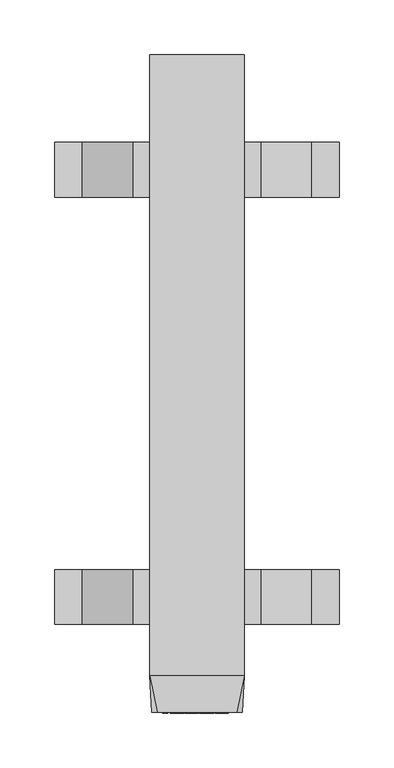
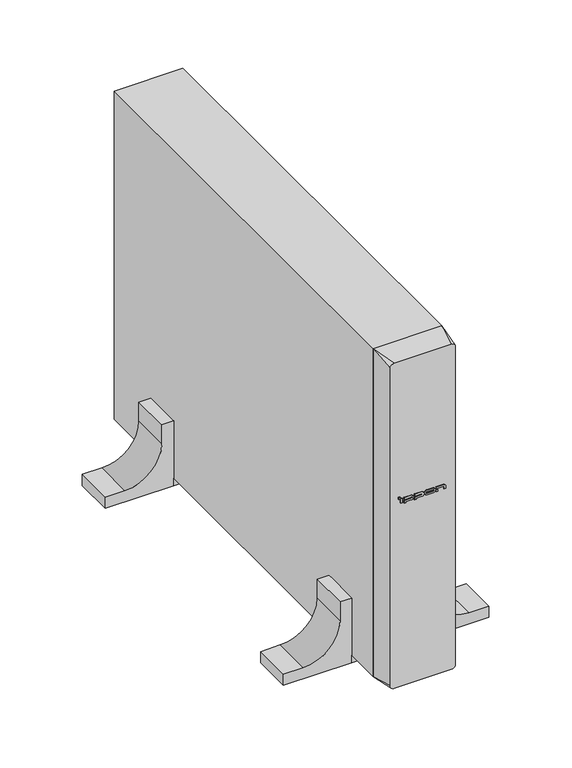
"""IFC4 building model written with IfcOpenShell, lengths in millimetres: proxy geometry, IPPON_ИБП_Smart Winner II_1000_1500_2000_2000E_3000ВА : Smart Winner II 2000 ВА."""

import ifcopenshell
import ifcopenshell.guid

model = None  # the IFC model being written
_history = None  # IfcOwnerHistory: only IFC2X3 demands one
_inside = {}  # id of a spatial element -> (the spatial element, [elements in it])
_under = {}  # id of a project, library or spatial element -> (it, [spatial elements below it])
_declared = {}  # id of a project -> (the project, [libraries it declares])
_typed = {}  # id of a type object -> (the type object, [elements of that type])
_made_of = {}  # id of a material, layer set ... -> (it, [elements and type objects made of it])


def new_model(schema):
    """Start an empty IFC model of exactly this schema.

    Asked for "IFC4X3", IfcOpenShell would pick the latest addendum, in which some entities
    have other attributes; the version numbers below select the first issue.
    IFC2X3 requires an IfcOwnerHistory on every rooted entity: one is made here for all.
    """
    global model, _history
    if schema == "IFC4X3":
        model = ifcopenshell.file(schema_version=(4, 3, 0, 0))
    else:
        model = ifcopenshell.file(schema=schema)
    _inside.clear()
    _under.clear()
    _declared.clear()
    _typed.clear()
    _made_of.clear()
    _history = None
    if model.schema == "IFC2X3":
        org = make("IfcOrganization", Name="unknown")
        user = make(
            "IfcPersonAndOrganization",
            ThePerson=make("IfcPerson", FamilyName="unknown"),
            TheOrganization=org,
        )
        app = make(
            "IfcApplication",
            ApplicationDeveloper=org,
            Version="unknown",
            ApplicationFullName="unknown",
            ApplicationIdentifier="unknown",
        )
        _history = make(
            "IfcOwnerHistory",
            OwningUser=user,
            OwningApplication=app,
            ChangeAction="ADDED",
            CreationDate=0,
        )
    return model


def make(cls, **values):
    """One entity of the class cls with the attributes given. An attribute that is None is left unset."""
    return model.create_entity(
        cls, **{name: value for name, value in values.items() if value is not None}
    )


def rooted(cls, **values):
    """An entity with a GlobalId (a new one), such as an element, a storey or a relation."""
    return make(cls, GlobalId=ifcopenshell.guid.new(), OwnerHistory=_history, **values)


def si_unit(unit_type, name, prefix=None):
    """IfcSIUnit, for example si_unit("LENGTHUNIT", "METRE", prefix="MILLI")."""
    return make("IfcSIUnit", UnitType=unit_type, Prefix=prefix, Name=name)


def assignment(units):
    """IfcUnitAssignment: the units of a project."""
    return None if units is None else make("IfcUnitAssignment", Units=units)


def point(xyz):
    """IfcCartesianPoint."""
    return None if xyz is None else make("IfcCartesianPoint", Coordinates=xyz)


def direction(xyz):
    """IfcDirection."""
    return None if xyz is None else make("IfcDirection", DirectionRatios=xyz)


def frame(location, z_axis=None, x_axis=None):
    """IfcAxis2Placement3D, a coordinate frame: its origin and axes. An axis left out is left unset."""
    return make(
        "IfcAxis2Placement3D",
        Location=point(location),
        Axis=direction(z_axis),
        RefDirection=direction(x_axis),
    )


def frame_2d(location, x_axis=None):
    """IfcAxis2Placement2D, a coordinate frame in the plane: its origin and x axis."""
    return make(
        "IfcAxis2Placement2D", Location=point(location), RefDirection=direction(x_axis)
    )


def origin():
    """The frame at (0, 0, 0) with its axes left unset."""
    return frame((0.0, 0.0, 0.0))


def origin_with_axes():
    """The frame at (0, 0, 0) with the z axis (0, 0, 1) and the x axis (1, 0, 0) written out."""
    return frame((0.0, 0.0, 0.0), z_axis=(0.0, 0.0, 1.0), x_axis=(1.0, 0.0, 0.0))


def place(relative_to, where):
    """IfcLocalPlacement: puts the frame where relative to a parent placement (None: the world)."""
    return make(
        "IfcLocalPlacement", PlacementRelTo=relative_to, RelativePlacement=where
    )


def context(
    kind, dimensions, precision=None, world=None, true_north=None, identifier=None
):
    """IfcGeometricRepresentationContext, for example the 3D "Model" context."""
    return make(
        "IfcGeometricRepresentationContext",
        ContextIdentifier=identifier,
        ContextType=kind,
        CoordinateSpaceDimension=dimensions,
        Precision=precision,
        WorldCoordinateSystem=world,
        TrueNorth=true_north,
    )


def project(units=None, contexts=None):
    """IfcProject with its units and contexts."""
    return rooted(
        "IfcProject",
        Name="project",
        RepresentationContexts=contexts,
        UnitsInContext=assignment(units),
    )


def spatial(cls, under=None, at=None, **own):
    """A site, building, storey or space (cls), placed at a placement, below another one or the project."""
    s = rooted(cls, ObjectPlacement=at, **own)
    if under is not None:
        _under.setdefault(under.id(), (under, []))[1].append(s)
    return s


def polyline(points):
    """IfcPolyline through the points."""
    return make("IfcPolyline", Points=[point(p) for p in points])


def circle_curve(where, radius):
    """IfcCircle in the frame where."""
    return make("IfcCircle", Position=where, Radius=radius)


def trimmed(basis, trim1, trim2, sense, master):
    """IfcTrimmedCurve: the piece of a basis curve between two trims."""
    return make(
        "IfcTrimmedCurve",
        BasisCurve=basis,
        Trim1=trim1,
        Trim2=trim2,
        SenseAgreement=sense,
        MasterRepresentation=master,
    )


def segment(curve, same_sense, transition):
    """IfcCompositeCurveSegment."""
    return make(
        "IfcCompositeCurveSegment",
        Transition=transition,
        SameSense=same_sense,
        ParentCurve=curve,
    )


def composite_curve(segments, self_intersect=None):
    """IfcCompositeCurve: segments joined end to end."""
    return make("IfcCompositeCurve", Segments=segments, SelfIntersect=self_intersect)


def outline(outer, holes=None, kind="AREA"):
    """IfcArbitraryClosedProfileDef: a profile drawn as a closed curve; with holes, ...WithVoids."""
    if holes is None:
        return make("IfcArbitraryClosedProfileDef", ProfileType=kind, OuterCurve=outer)
    return make(
        "IfcArbitraryProfileDefWithVoids",
        ProfileType=kind,
        OuterCurve=outer,
        InnerCurves=holes,
    )


def extrude(swept, where, along, depth):
    """IfcExtrudedAreaSolid: the profile swept, set in the frame where, extruded along a direction by depth."""
    return make(
        "IfcExtrudedAreaSolid",
        SweptArea=swept,
        Position=where,
        ExtrudedDirection=direction(along),
        Depth=depth,
    )


def shape(context_of_items, identifier, shape_type, items):
    """IfcShapeRepresentation: the items that make up one representation, for example the "Body"."""
    return make(
        "IfcShapeRepresentation",
        ContextOfItems=context_of_items,
        RepresentationIdentifier=identifier,
        RepresentationType=shape_type,
        Items=items,
    )


def source(mapping_origin, context_of_items, identifier, shape_type, items):
    """IfcRepresentationMap: a shape defined once, which mapped items show again and again."""
    return make(
        "IfcRepresentationMap",
        MappingOrigin=mapping_origin,
        MappedRepresentation=shape(context_of_items, identifier, shape_type, items),
    )


def transform(
    local_origin,
    x_axis=None,
    y_axis=None,
    z_axis=None,
    scale=None,
    scale2=None,
    scale3=None,
    uniform=True,
):
    """IfcCartesianTransformationOperator3D, or its non-uniform kind. x_axis, y_axis, z_axis: its Axis1, 2, 3."""
    if uniform:
        return make(
            "IfcCartesianTransformationOperator3D",
            Axis1=direction(x_axis),
            Axis2=direction(y_axis),
            LocalOrigin=point(local_origin),
            Scale=scale,
            Axis3=direction(z_axis),
        )
    return make(
        "IfcCartesianTransformationOperator3DnonUniform",
        Axis1=direction(x_axis),
        Axis2=direction(y_axis),
        LocalOrigin=point(local_origin),
        Scale=scale,
        Axis3=direction(z_axis),
        Scale2=scale2,
        Scale3=scale3,
    )


def mapped(mapping_source, mapping_target):
    """IfcMappedItem: shows the shape of a source again, moved by a transform."""
    return make(
        "IfcMappedItem", MappingSource=mapping_source, MappingTarget=mapping_target
    )


def made_of(thing, what):
    """Note that an element or type object is made of a material, layer set ...; save() writes the relation."""
    if what is not None:
        _made_of.setdefault(what.id(), (what, []))[1].append(thing)
    return thing


def element(
    cls,
    number,
    at=None,
    inside=None,
    cuts=None,
    type_object=None,
    material=None,
    context=None,
    identifier="Body",
    shape_type=None,
    held_by="IfcProductDefinitionShape",
    body=None,
    shapes=None,
    **own,
):
    """One element of the class cls, such as IfcWall. Its Tag is "e" and its number.

    at: its placement. inside: the storey or other place that contains it. cuts: it is an
    opening in that element (IfcRelVoidsElement). A single representation is given by context,
    identifier, shape_type and body (its items); several are given by shapes. held_by: the class
    of the entity that holds the representations. save() writes the other relations.
    """
    e = rooted(cls, Tag="e%d" % number, ObjectPlacement=at, **own)
    if body is not None:
        shapes = [shape(context, identifier, shape_type, body)]
    if shapes is not None:
        e.Representation = make(held_by, Representations=shapes)
    if inside is not None:
        _inside.setdefault(inside.id(), (inside, []))[1].append(e)
    if cuts is not None:
        rooted(
            "IfcRelVoidsElement", RelatingBuildingElement=cuts, RelatedOpeningElement=e
        )
    if type_object is not None:
        _typed.setdefault(type_object.id(), (type_object, []))[1].append(e)
    return made_of(e, material)


def aggregate(whole, parts):
    """IfcRelAggregates: a whole, such as a stair, and the parts it consists of."""
    return rooted("IfcRelAggregates", RelatingObject=whole, RelatedObjects=parts)


def save(model, path):
    """Write the relations noted so far, then the file.

    IfcRelAggregates (storeys below a building ...), IfcRelContainedInSpatialStructure (elements
    in a storey), IfcRelDefinesByType, IfcRelAssociatesMaterial and IfcRelDeclares: one each for
    every whole, place, type object, material and project.
    """
    for whole, parts in _under.values():
        aggregate(whole, parts)
    for where, things in _inside.values():
        rooted(
            "IfcRelContainedInSpatialStructure",
            RelatedElements=things,
            RelatingStructure=where,
        )
    for kind, things in _typed.values():
        rooted("IfcRelDefinesByType", RelatedObjects=things, RelatingType=kind)
    for what, things in _made_of.values():
        rooted("IfcRelAssociatesMaterial", RelatedObjects=things, RelatingMaterial=what)
    for by, libraries in _declared.values():
        rooted("IfcRelDeclares", RelatingContext=by, RelatedDefinitions=libraries)
    model.write(path)


def plane_surface(at):
    """IfcPlane: the flat surface through the origin of the frame at, square to its z axis."""
    return make("IfcPlane", Position=at)


def spline_surface(u_degree, v_degree, points, u_multiplicities, v_multiplicities, u_knots, v_knots, weights=None):
    """IfcBSplineSurfaceWithKnots; with weights, IfcRationalBSplineSurfaceWithKnots. points: one row for each step in u."""
    own = dict(
        UDegree=u_degree,
        VDegree=v_degree,
        ControlPointsList=[[point(p) for p in row] for row in points],
        SurfaceForm="UNSPECIFIED",
        UClosed=False,
        VClosed=False,
        SelfIntersect=False,
        UMultiplicities=u_multiplicities,
        VMultiplicities=v_multiplicities,
        UKnots=u_knots,
        VKnots=v_knots,
        KnotSpec="UNSPECIFIED",
    )
    if weights is None:
        return make("IfcBSplineSurfaceWithKnots", **own)
    return make("IfcRationalBSplineSurfaceWithKnots", WeightsData=weights, **own)


def advanced_brep(points, edges, surfaces, faces):
    """IfcAdvancedBrep: a solid bounded by faces that lie on surfaces and meet in shared edges.

    An edge is (start, end): straight between two places in points (the first is 0);
    or (start, end, curve); or (start, end, curve, False) where it runs against its curve.
    A face is (place in surfaces, loops), or (place, loops, False) where it looks against
    its surface's normal. A loop lists edges by number (the first is 1), with a minus sign
    where the edge is run from its end to its start. The first loop is the outer one.
    """
    corners = [point(p) for p in points]
    vertices = [make("IfcVertexPoint", VertexGeometry=c) for c in corners]
    made = []
    for start, end, *more in edges:
        made.append(
            make(
                "IfcEdgeCurve",
                EdgeStart=vertices[start],
                EdgeEnd=vertices[end],
                EdgeGeometry=more[0] if more else make("IfcPolyline", Points=[corners[start], corners[end]]),
                SameSense=more[1] if len(more) > 1 else True,
            )
        )
    hull = []
    for where, loops, *sense in faces:
        bounds = []
        for j, loop in enumerate(loops):
            ring = [make("IfcOrientedEdge", EdgeElement=made[abs(k) - 1], Orientation=k > 0) for k in loop]
            bounds.append(
                make(
                    "IfcFaceOuterBound" if j == 0 else "IfcFaceBound",
                    Bound=make("IfcEdgeLoop", EdgeList=ring),
                    Orientation=True,
                )
            )
        hull.append(make("IfcAdvancedFace", Bounds=bounds, FaceSurface=surfaces[where], SameSense=sense[0] if sense else True))
    return make("IfcAdvancedBrep", Outer=make("IfcClosedShell", CfsFaces=hull))


def electrical_equipment_31c24b1d(model_context):
    return source(origin(), model_context, "Body", "SolidModel", [
        extrude(outline(polyline([(-29.1718133, -1.0), (-31.1718133, -1.0), (-31.1718133, 0.0), (-29.1718133, 0.0), (-29.1718133, -1.0)])), frame((0.0, 0.0, 262.7195835), z_axis=(0.0, 0.0, 1.0), x_axis=(1.0, 0.0, 0.0)), (0.0, 0.0, 1.0), 2.3),
        extrude(outline(polyline([(18.6035474, -1.0), (16.6035474, -1.0), (16.6035474, 0.0), (18.6035474, 0.0), (18.6035474, -1.0)])), frame((0.0, 0.0, 256.7195835), z_axis=(0.0, 0.0, 1.0), x_axis=(1.0, 0.0, 0.0)), (0.0, 0.0, 1.0), 2.2268231),
        extrude(outline(polyline([(-26.438565, -1.0), (-28.4833324, -1.0), (-28.4833324, 0.0), (-26.438565, 0.0), (-26.438565, -1.0)])), frame((0.0, 0.0, 256.7195835), z_axis=(0.0, 0.0, 1.0), x_axis=(1.0, 0.0, 0.0)), (0.0, 0.0, 1.0), 6.0),
        extrude(outline(composite_curve([segment(polyline([(260.4571435, -24.2241109), (260.4571435, -14.9923536)]), True, "CONTINUOUS"), segment(trimmed(circle_curve(frame_2d((259.6006642, -14.9923536)), 0.8564793), [point((260.4571435, -14.9923536))], [point((258.7441849, -14.9923536))], True, "CARTESIAN"), True, "CONTINUOUS"), segment(polyline([(258.7441849, -14.9923536), (258.7441849, -24.2241109), (255.2536803, -24.2241109), (255.2536803, -22.2241109), (256.7195835, -22.2241109), (256.7195835, -15.1486036)]), True, "CONTINUOUS"), segment(trimmed(circle_curve(frame_2d((259.7195835, -15.1486036)), 3.0), [point((256.7195835, -15.1486036))], [point((262.7195835, -15.1486036))], False, "CARTESIAN"), True, "CONTINUOUS"), segment(polyline([(262.7195835, -15.1486036), (262.7195835, -24.2241109), (260.4571435, -24.2241109)]), True, "CONTINUOUS")], self_intersect=False)), frame((0.0, -1.0, 0.0), z_axis=(0.0, 1.0, 0.0), x_axis=(0.0, 0.0, 1.0)), (0.0, 0.0, 1.0), 1.0),
        extrude(outline(composite_curve([segment(polyline([(260.4571435, -11.0171091), (260.4571435, -1.7853518)]), True, "CONTINUOUS"), segment(trimmed(circle_curve(frame_2d((259.6006642, -1.7853518)), 0.8564793), [point((260.4571435, -1.7853518))], [point((258.7441849, -1.7853518))], True, "CARTESIAN"), True, "CONTINUOUS"), segment(polyline([(258.7441849, -1.7853518), (258.7441849, -11.0171091), (255.2536803, -11.0171091), (255.2536803, -9.0171091), (256.7195835, -9.0171091), (256.7195835, -1.9416018)]), True, "CONTINUOUS"), segment(trimmed(circle_curve(frame_2d((259.7195835, -1.9416018)), 3.0), [point((256.7195835, -1.9416018))], [point((262.7195835, -1.9416018))], False, "CARTESIAN"), True, "CONTINUOUS"), segment(polyline([(262.7195835, -1.9416018), (262.7195835, -11.0171091), (260.4571435, -11.0171091)]), True, "CONTINUOUS")], self_intersect=False)), frame((0.0, -1.0, 0.0), z_axis=(0.0, 1.0, 0.0), x_axis=(0.0, 0.0, 1.0)), (0.0, 0.0, 1.0), 1.0),
        extrude(outline(composite_curve([segment(trimmed(circle_curve(frame_2d((259.7195835, 12.558657)), 3.0), [point((256.7195835, 12.558657))], [point((262.7195835, 12.558657))], False, "CARTESIAN"), True, "CONTINUOUS"), segment(polyline([(262.7195835, 12.558657), (262.7195835, 4.958657)]), True, "CONTINUOUS"), segment(trimmed(circle_curve(frame_2d((259.7195835, 4.958657)), 3.0), [point((262.7195835, 4.958657))], [point((256.7195835, 4.958657))], False, "CARTESIAN"), True, "CONTINUOUS"), segment(polyline([(256.7195835, 4.958657), (256.7195835, 12.558657)]), True, "CONTINUOUS")], self_intersect=False), holes=[composite_curve([segment(polyline([(258.7441849, 12.714907), (258.7441849, 4.802407)]), True, "CONTINUOUS"), segment(trimmed(circle_curve(frame_2d((259.6006642, 4.802407)), 0.8564793), [point((258.7441849, 4.802407))], [point((260.4571435, 4.802407))], True, "CARTESIAN"), True, "CONTINUOUS"), segment(polyline([(260.4571435, 4.802407), (260.4571435, 12.714907)]), True, "CONTINUOUS"), segment(trimmed(circle_curve(frame_2d((259.6006642, 12.714907)), 0.8564793), [point((260.4571435, 12.714907))], [point((258.7441849, 12.714907))], True, "CARTESIAN"), True, "CONTINUOUS")], self_intersect=False)]), frame((0.0, -1.0, 0.0), z_axis=(0.0, 1.0, 0.0), x_axis=(0.0, 0.0, 1.0)), (0.0, 0.0, 1.0), 1.0),
        extrude(outline(composite_curve([segment(polyline([(260.4571435, 16.6035474), (260.4571435, 25.8353046)]), True, "CONTINUOUS"), segment(trimmed(circle_curve(frame_2d((259.6006642, 25.8353046)), 0.8564793), [point((260.4571435, 25.8353046))], [point((259.6006642, 26.6917839))], True, "CARTESIAN"), True, "CONTINUOUS"), segment(polyline([(259.6006642, 26.6917839), (256.7195835, 26.6917839), (256.7195835, 28.6317921), (260.25, 28.6317921)]), True, "CONTINUOUS"), segment(trimmed(circle_curve(frame_2d((259.7195835, 25.6790546)), 3.0), [point((260.25, 28.6317921))], [point((262.7195835, 25.6790546))], False, "CARTESIAN"), True, "CONTINUOUS"), segment(polyline([(262.7195835, 25.6790546), (262.7195835, 16.6035474), (260.4571435, 16.6035474)]), True, "CONTINUOUS")], self_intersect=False)), frame((0.0, -1.0, 0.0), z_axis=(0.0, 1.0, 0.0), x_axis=(0.0, 0.0, 1.0)), (0.0, 0.0, 1.0), 1.0),
        extrude(outline(polyline([(-43.25, 520.0), (43.25, 520.0), (43.25, 470.0), (-43.25, 470.0), (-43.25, 520.0)])), origin_with_axes(), (0.0, 0.0, 1.0), 10.0),
        extrude(outline(polyline([(43.25, 80.0), (-43.25, 80.0), (-43.25, 130.0), (43.25, 130.0), (43.25, 80.0)])), origin_with_axes(), (0.0, 0.0, 1.0), 10.0),
        extrude(outline(composite_curve([segment(polyline([(0.0, -43.25), (86.5, -43.25), (86.5, -58.25), (61.5, -58.25)]), True, "CONTINUOUS"), segment(trimmed(circle_curve(frame_2d((61.5, -104.75)), 46.5), [point((61.5, -58.25))], [point((15.0, -104.75))], True, "CARTESIAN"), True, "CONTINUOUS"), segment(polyline([(15.0, -104.75), (15.0, -129.75), (0.0, -129.75), (0.0, -43.25)]), True, "CONTINUOUS")], self_intersect=False)), frame((0.0, 470.0, 0.0), z_axis=(0.0, 1.0, 0.0), x_axis=(0.0, 0.0, 1.0)), (0.0, 0.0, 1.0), 50.0),
        extrude(outline(composite_curve([segment(polyline([(0.0, -43.25), (86.5, -43.25), (86.5, -58.25), (61.5, -58.25)]), True, "CONTINUOUS"), segment(trimmed(circle_curve(frame_2d((61.5, -104.75)), 46.5), [point((61.5, -58.25))], [point((15.0, -104.75))], True, "CARTESIAN"), True, "CONTINUOUS"), segment(polyline([(15.0, -104.75), (15.0, -129.75), (0.0, -129.75), (0.0, -43.25)]), True, "CONTINUOUS")], self_intersect=False)), frame((0.0, 80.0, 0.0), z_axis=(0.0, 1.0, 0.0), x_axis=(0.0, 0.0, 1.0)), (0.0, 0.0, 1.0), 50.0),
        extrude(outline(composite_curve([segment(polyline([(0.0, 129.75), (15.0, 129.75), (15.0, 104.75)]), True, "CONTINUOUS"), segment(trimmed(circle_curve(frame_2d((61.5, 104.75)), 46.5), [point((15.0, 104.75))], [point((61.5, 58.25))], True, "CARTESIAN"), True, "CONTINUOUS"), segment(polyline([(61.5, 58.25), (86.5, 58.25), (86.5, 43.25), (0.0, 43.25), (0.0, 129.75)]), True, "CONTINUOUS")], self_intersect=False)), frame((0.0, 470.0, 0.0), z_axis=(0.0, 1.0, 0.0), x_axis=(0.0, 0.0, 1.0)), (0.0, 0.0, 1.0), 50.0),
        extrude(outline(composite_curve([segment(polyline([(0.0, 43.25), (0.0, 129.75), (15.0, 129.75), (15.0, 104.75)]), True, "CONTINUOUS"), segment(trimmed(circle_curve(frame_2d((61.5, 104.75)), 46.5), [point((15.0, 104.75))], [point((61.5, 58.25))], True, "CARTESIAN"), True, "CONTINUOUS"), segment(polyline([(61.5, 58.25), (86.5, 58.25), (86.5, 43.25), (0.0, 43.25)]), True, "CONTINUOUS")], self_intersect=False)), frame((0.0, 80.0, 0.0), z_axis=(0.0, 1.0, 0.0), x_axis=(0.0, 0.0, 1.0)), (0.0, 0.0, 1.0), 50.0),
        advanced_brep(
        [(36.25, 0.0, 12.0), (41.25, 0.0, 17.0), (41.25, 0.0, 441.0), (36.25, 0.0, 446.0), (-36.25, 0.0, 446.0), (-41.25, 0.0, 441.0), (-41.25, 0.0, 17.0), (-36.25, 0.0, 12.0), (43.25, 33.0, 10.0), (-43.25, 33.0, 10.0), (-43.25, 33.0, 448.0), (43.25, 33.0, 448.0)],
        [
            (0, 1, circle_curve(frame((36.25, 0.0, 17.0), z_axis=(0.0, -1.0, 0.0), x_axis=(-1.0, 0.0, 0.0)), 5.0)),
            (1, 2),
            (2, 3, circle_curve(frame((36.25, 0.0, 441.0), z_axis=(0.0, -1.0, 0.0), x_axis=(-1.0, 0.0, 0.0)), 5.0)),
            (3, 4),
            (4, 5, circle_curve(frame((-36.25, 0.0, 441.0), z_axis=(0.0, -1.0, 0.0), x_axis=(-1.0, 0.0, 0.0)), 5.0)),
            (5, 6),
            (6, 7, circle_curve(frame((-36.25, 0.0, 17.0), z_axis=(0.0, -1.0, 0.0), x_axis=(-1.0, 0.0, 0.0)), 5.0)),
            (7, 0),
            (8, 9),
            (9, 10),
            (10, 11),
            (11, 8),
            (0, 8),
            (8, 1),
            (7, 9),
            (6, 9),
            (5, 10),
            (4, 10),
            (3, 11),
            (2, 11),
        ],
        [
            plane_surface(frame((0.0, 0.0, 229.0), z_axis=(0.0, -1.0, 0.0), x_axis=(1.0, 0.0, 0.0))),
            plane_surface(frame((0.0, 33.0, 229.0), z_axis=(0.0, 1.0, 0.0), x_axis=(1.0, 0.0, 0.0))),
            spline_surface(2, 1, [[(43.25, 33.0, 10.0), (36.25, 0.0, 12.0)], [(43.25, 33.0, 10.0), (41.25, 0.0, 12.0)], [(43.25, 33.0, 10.0), (41.25, 0.0, 17.0)]], [3, 3], [2, 2], [0.0, 1.0], [0.0, 1.0], weights=[[1.0, 1.0], [0.7071067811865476, 0.7071067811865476], [1.0, 1.0]]),
            plane_surface(frame((0.0, 33.0, 10.0), z_axis=(0.0, -0.060495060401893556, -0.9981684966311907), x_axis=(1.0, 0.0, 0.0))),
            spline_surface(2, 1, [[(-43.25, 33.0, 10.0), (-41.25, 0.0, 17.0)], [(-43.25, 33.0, 10.0), (-41.25, 0.0, 12.0)], [(-43.25, 33.0, 10.0), (-36.25, 0.0, 12.0)]], [3, 3], [2, 2], [0.0, 1.0], [0.0, 1.0], weights=[[1.0, 1.0], [0.7071067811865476, 0.7071067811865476], [1.0, 1.0]]),
            plane_surface(frame((-43.25, 33.0, 229.0), z_axis=(-0.998168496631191, -0.06049506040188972, 0.0), x_axis=(0.0, 0.0, -1.0))),
            spline_surface(2, 1, [[(-43.25, 33.0, 448.0), (-36.25, 0.0, 446.0)], [(-43.25, 33.0, 448.0), (-41.25, 0.0, 446.0)], [(-43.25, 33.0, 448.0), (-41.25, 0.0, 441.0)]], [3, 3], [2, 2], [0.0, 1.0], [0.0, 1.0], weights=[[1.0, 1.0], [0.7071067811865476, 0.7071067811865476], [1.0, 1.0]]),
            plane_surface(frame((0.0, 33.0, 448.0), z_axis=(0.0, -0.06049506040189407, 0.9981684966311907), x_axis=(-1.0, 0.0, 0.0))),
            spline_surface(2, 1, [[(43.25, 33.0, 448.0), (41.25, 0.0, 441.0)], [(43.25, 33.0, 448.0), (41.25, 0.0, 446.0)], [(43.25, 33.0, 448.0), (36.25, 0.0, 446.0)]], [3, 3], [2, 2], [0.0, 1.0], [0.0, 1.0], weights=[[1.0, 1.0], [0.7071067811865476, 0.7071067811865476], [1.0, 1.0]]),
            plane_surface(frame((43.25, 33.0, 229.0), z_axis=(0.9981684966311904, -0.06049506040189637, 0.0), x_axis=(0.0, 0.0, 1.0))),
        ],
        [
            (0, [[1, 2, 3, 4, 5, 6, 7, 8]]),
            (1, [[9, 10, 11, 12]]),
            (2, [[-1, 13, 14]]),
            (3, [[-9, -13, -8, 15]]),
            (4, [[-7, 16, -15]]),
            (5, [[-10, -16, -6, 17]]),
            (6, [[-5, 18, -17]]),
            (7, [[-11, -18, -4, 19]]),
            (8, [[-3, 20, -19]]),
            (9, [[-12, -20, -2, -14]]),
        ],
    ),
        extrude(outline(polyline([(43.25, 33.0), (-43.25, 33.0), (-43.25, 600.0), (43.25, 600.0), (43.25, 33.0)])), frame((0.0, 0.0, 10.0), z_axis=(0.0, 0.0, 1.0), x_axis=(1.0, 0.0, 0.0)), (0.0, 0.0, 1.0), 438.0),
    ])


if __name__ == "__main__":
    model = new_model("IFC4")
    model_context = context("Model", 3, world=origin())
    ifc_project = project(units=[si_unit("LENGTHUNIT", "METRE", prefix="MILLI")], contexts=[model_context])
    site = spatial("IfcSite", under=ifc_project)
    building = spatial("IfcBuilding", under=site)
    placement = place(None, origin())
    electrical_equipment_shape = electrical_equipment_31c24b1d(model_context)
    element("IfcBuildingElementProxy", 1, Name="IPPON_ИБП_Smart Winner II_1000_1500_2000_2000E_3000ВА : Smart Winner II 2000 ВА", ObjectType="IPPON_ИБП_Smart Winner II_1000_1500_2000_2000E_3000ВА : Smart Winner II 2000 ВА", at=placement, inside=building, context=model_context, shape_type="MappedRepresentation", body=[
        mapped(electrical_equipment_shape, transform((0.0, 0.0, 0.0), x_axis=(1.0, 0.0, 0.0), y_axis=(0.0, 1.0, 0.0), z_axis=(0.0, 0.0, 1.0))),
    ])
    save(model, "model.ifc")
